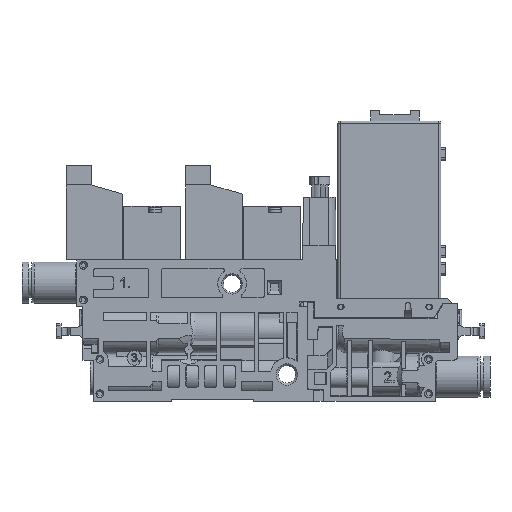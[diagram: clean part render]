
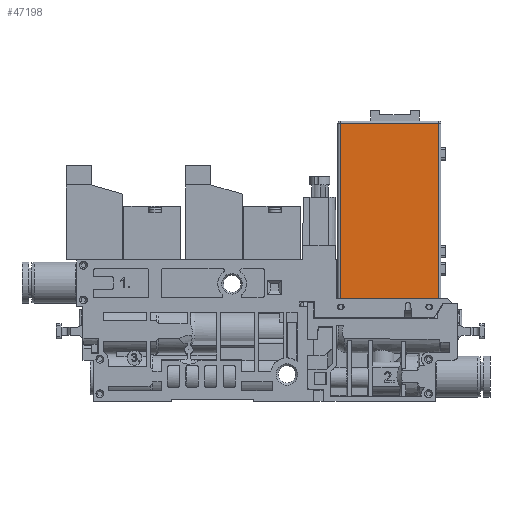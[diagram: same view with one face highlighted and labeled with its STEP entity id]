
A CAD part, left-side view. The second image highlights one B-rep face of the part: STEP entity #47198.
In plain terms, the highlighted planar face has unit normal (-1, 0, 0).
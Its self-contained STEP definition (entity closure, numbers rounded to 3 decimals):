
#2179=LINE('',#66400,#5573);
#2392=LINE('',#67428,#5786);
#2393=LINE('',#67432,#5787);
#2394=LINE('',#67434,#5788);
#5573=VECTOR('',#56064,1000.);
#5786=VECTOR('',#56763,1000.);
#5787=VECTOR('',#56768,1000.);
#5788=VECTOR('',#56769,1000.);
#8794=PLANE('',#49822);
#15097=ORIENTED_EDGE('',*,*,#22419,.T.);
#15098=ORIENTED_EDGE('',*,*,#22421,.F.);
#15099=ORIENTED_EDGE('',*,*,#22422,.T.);
#15100=ORIENTED_EDGE('',*,*,#22031,.T.);
#22031=EDGE_CURVE('',#26286,#26285,#2179,.T.);
#22419=EDGE_CURVE('',#26285,#26574,#2392,.T.);
#22421=EDGE_CURVE('',#26575,#26574,#2393,.T.);
#22422=EDGE_CURVE('',#26575,#26286,#2394,.T.);
#26285=VERTEX_POINT('',#66397);
#26286=VERTEX_POINT('',#66401);
#26574=VERTEX_POINT('',#67429);
#26575=VERTEX_POINT('',#67433);
#30037=EDGE_LOOP('',(#15097,#15098,#15099,#15100));
#32121=FACE_BOUND('',#30037,.T.);
#47198=ADVANCED_FACE('',(#32121),#8794,.F.);
#49822=AXIS2_PLACEMENT_3D('',#67431,#56766,#56767);
#56064=DIRECTION('',(0.,1.,0.));
#56763=DIRECTION('',(0.,0.,-1.));
#56766=DIRECTION('',(1.,0.,0.));
#56767=DIRECTION('',(0.,0.,1.));
#56768=DIRECTION('',(0.,1.,0.));
#56769=DIRECTION('',(0.,0.,1.));
#66397=CARTESIAN_POINT('',(-4.9,-7.9,67.5));
#66400=CARTESIAN_POINT('',(-4.9,-31.9,67.5));
#66401=CARTESIAN_POINT('',(-4.9,-31.9,67.5));
#67428=CARTESIAN_POINT('',(-4.9,-7.9,67.5));
#67429=CARTESIAN_POINT('',(-4.9,-7.9,25.));
#67431=CARTESIAN_POINT('',(-4.9,-19.9,46.));
#67432=CARTESIAN_POINT('',(-4.9,-31.9,25.));
#67433=CARTESIAN_POINT('',(-4.9,-31.9,25.));
#67434=CARTESIAN_POINT('',(-4.9,-31.9,25.));
